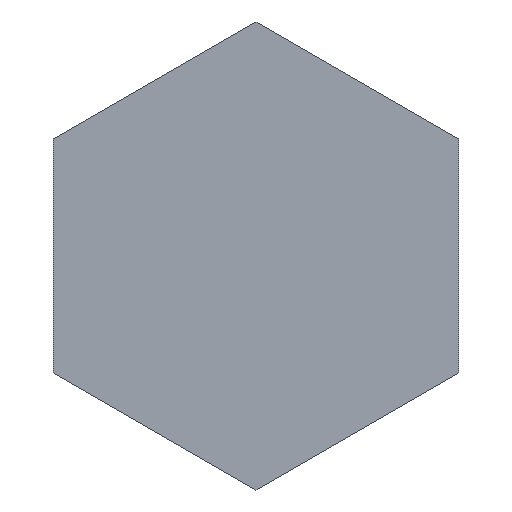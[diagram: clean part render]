
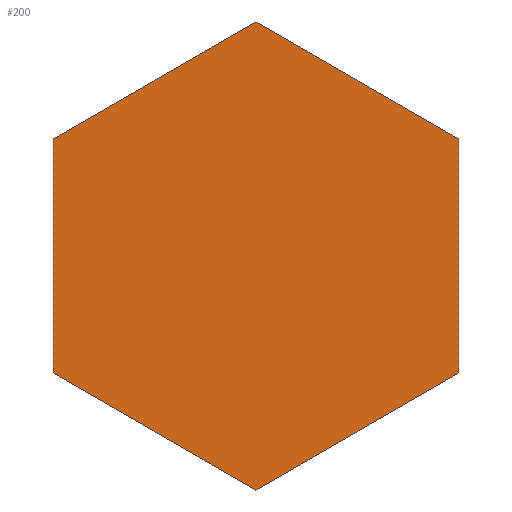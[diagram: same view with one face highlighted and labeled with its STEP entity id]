
A CAD part, front view. The second image highlights one B-rep face of the part: STEP entity #200.
In plain terms, the highlighted planar face has unit normal (0, -1, 0).
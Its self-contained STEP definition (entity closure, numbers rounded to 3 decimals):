
#54=FACE_OUTER_BOUND('',#63,.T.);
#63=EDGE_LOOP('',(#177,#178,#179,#180,#181,#182));
#74=LINE('',#337,#95);
#77=LINE('',#342,#98);
#79=LINE('',#346,#100);
#81=LINE('',#350,#102);
#83=LINE('',#354,#104);
#84=LINE('',#356,#105);
#95=VECTOR('',#264,10.);
#98=VECTOR('',#269,10.);
#100=VECTOR('',#273,10.);
#102=VECTOR('',#277,10.);
#104=VECTOR('',#281,10.);
#105=VECTOR('',#284,10.);
#114=VERTEX_POINT('',#334);
#115=VERTEX_POINT('',#336);
#116=VERTEX_POINT('',#340);
#117=VERTEX_POINT('',#344);
#118=VERTEX_POINT('',#348);
#119=VERTEX_POINT('',#352);
#130=EDGE_CURVE('',#114,#115,#74,.T.);
#133=EDGE_CURVE('',#116,#114,#77,.T.);
#135=EDGE_CURVE('',#117,#116,#79,.T.);
#137=EDGE_CURVE('',#118,#117,#81,.T.);
#139=EDGE_CURVE('',#119,#118,#83,.T.);
#140=EDGE_CURVE('',#115,#119,#84,.T.);
#177=ORIENTED_EDGE('',*,*,#133,.F.);
#178=ORIENTED_EDGE('',*,*,#135,.F.);
#179=ORIENTED_EDGE('',*,*,#137,.F.);
#180=ORIENTED_EDGE('',*,*,#139,.F.);
#181=ORIENTED_EDGE('',*,*,#140,.F.);
#182=ORIENTED_EDGE('',*,*,#130,.F.);
#191=PLANE('',#232);
#200=ADVANCED_FACE('',(#54),#191,.F.);
#232=AXIS2_PLACEMENT_3D('',#357,#285,#286);
#264=DIRECTION('',(0.866,0.,0.5));
#269=DIRECTION('',(0.,0.,1.));
#273=DIRECTION('',(-0.866,0.,0.5));
#277=DIRECTION('',(-0.866,0.,-0.5));
#281=DIRECTION('',(0.,0.,-1.));
#284=DIRECTION('',(0.866,0.,-0.5));
#285=DIRECTION('center_axis',(0.,1.,0.));
#286=DIRECTION('ref_axis',(0.,0.,1.));
#334=CARTESIAN_POINT('',(-20.,0.,11.547));
#336=CARTESIAN_POINT('',(0.,0.,23.094));
#337=CARTESIAN_POINT('',(-20.,0.,11.547));
#340=CARTESIAN_POINT('',(-20.,0.,-11.547));
#342=CARTESIAN_POINT('',(-20.,0.,-11.547));
#344=CARTESIAN_POINT('',(0.,0.,-23.094));
#346=CARTESIAN_POINT('',(0.,0.,-23.094));
#348=CARTESIAN_POINT('',(20.,0.,-11.547));
#350=CARTESIAN_POINT('',(20.,0.,-11.547));
#352=CARTESIAN_POINT('',(20.,0.,11.547));
#354=CARTESIAN_POINT('',(20.,0.,11.547));
#356=CARTESIAN_POINT('',(0.,0.,23.094));
#357=CARTESIAN_POINT('Origin',(0.,0.,0.));
